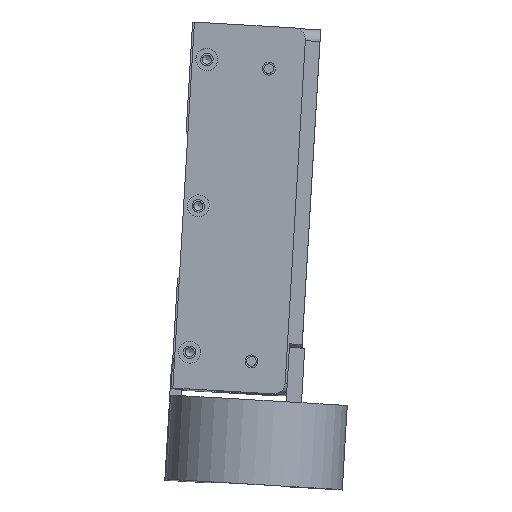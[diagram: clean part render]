
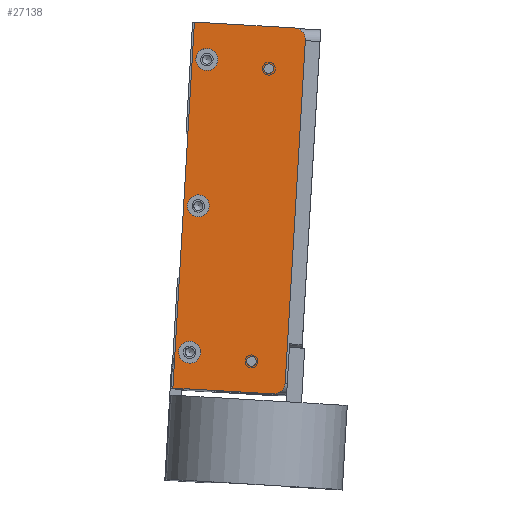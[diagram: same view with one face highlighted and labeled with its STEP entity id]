
A CAD part, top view. The second image highlights one B-rep face of the part: STEP entity #27138.
In plain terms, the highlighted planar face has unit normal (0, 0, 1) as drawn and (0, -1, 0) by its records, which use the part's own axes.
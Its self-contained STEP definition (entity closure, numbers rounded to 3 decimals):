
#745=PLANE($,#29371);
#1711=FACE_BOUND($,#4605,.T.);
#1712=FACE_BOUND($,#4606,.T.);
#1713=FACE_BOUND($,#4607,.T.);
#1714=FACE_BOUND($,#4608,.T.);
#1715=FACE_BOUND($,#4609,.T.);
#1716=FACE_BOUND($,#4610,.T.);
#4605=EDGE_LOOP($,(#21373));
#4606=EDGE_LOOP($,(#21374));
#4607=EDGE_LOOP($,(#21375));
#4608=EDGE_LOOP($,(#21376));
#4609=EDGE_LOOP($,(#21377));
#4610=EDGE_LOOP($,(#21378,#21379,#21380,#21381,#21382,#21383));
#6695=LINE($,#42455,#9190);
#6698=LINE($,#42471,#9193);
#6699=LINE($,#42473,#9194);
#6700=LINE($,#42475,#9195);
#9190=VECTOR($,#34167,93.65);
#9193=VECTOR($,#34182,27.325);
#9194=VECTOR($,#34183,100.);
#9195=VECTOR($,#34184,27.325);
#11567=CIRCLE($,#29368,3.175);
#11569=CIRCLE($,#29372,3.);
#11570=CIRCLE($,#29373,3.);
#11571=CIRCLE($,#29374,3.);
#11572=CIRCLE($,#29375,1.321);
#11573=CIRCLE($,#29376,1.321);
#11574=CIRCLE($,#29377,3.175);
#13078=VERTEX_POINT($,#42445);
#13079=VERTEX_POINT($,#42446);
#13082=VERTEX_POINT($,#42454);
#13084=VERTEX_POINT($,#42460);
#13085=VERTEX_POINT($,#42462);
#13086=VERTEX_POINT($,#42464);
#13087=VERTEX_POINT($,#42466);
#13088=VERTEX_POINT($,#42468);
#13089=VERTEX_POINT($,#42470);
#13090=VERTEX_POINT($,#42472);
#13091=VERTEX_POINT($,#42474);
#16154=EDGE_CURVE($,#13078,#13079,#11567,.T.);
#16158=EDGE_CURVE($,#13079,#13082,#6695,.T.);
#16161=EDGE_CURVE($,#13084,#13084,#11569,.T.);
#16162=EDGE_CURVE($,#13085,#13085,#11570,.T.);
#16163=EDGE_CURVE($,#13086,#13086,#11571,.T.);
#16164=EDGE_CURVE($,#13087,#13087,#11572,.T.);
#16165=EDGE_CURVE($,#13088,#13088,#11573,.T.);
#16166=EDGE_CURVE($,#13078,#13089,#6698,.T.);
#16167=EDGE_CURVE($,#13089,#13090,#6699,.T.);
#16168=EDGE_CURVE($,#13090,#13091,#6700,.T.);
#16169=EDGE_CURVE($,#13082,#13091,#11574,.T.);
#21373=ORIENTED_EDGE($,*,*,#16161,.T.);
#21374=ORIENTED_EDGE($,*,*,#16162,.T.);
#21375=ORIENTED_EDGE($,*,*,#16163,.T.);
#21376=ORIENTED_EDGE($,*,*,#16164,.T.);
#21377=ORIENTED_EDGE($,*,*,#16165,.T.);
#21378=ORIENTED_EDGE($,*,*,#16154,.F.);
#21379=ORIENTED_EDGE($,*,*,#16166,.T.);
#21380=ORIENTED_EDGE($,*,*,#16167,.T.);
#21381=ORIENTED_EDGE($,*,*,#16168,.T.);
#21382=ORIENTED_EDGE($,*,*,#16169,.F.);
#21383=ORIENTED_EDGE($,*,*,#16158,.F.);
#27138=ADVANCED_FACE($,(#1711,#1712,#1713,#1714,#1715,#1716),#745,.T.);
#29368=AXIS2_PLACEMENT_3D($,#42447,#34159,#34160);
#29371=AXIS2_PLACEMENT_3D($,#42459,#34170,#34171);
#29372=AXIS2_PLACEMENT_3D($,#42461,#34172,#34173);
#29373=AXIS2_PLACEMENT_3D($,#42463,#34174,#34175);
#29374=AXIS2_PLACEMENT_3D($,#42465,#34176,#34177);
#29375=AXIS2_PLACEMENT_3D($,#42467,#34178,#34179);
#29376=AXIS2_PLACEMENT_3D($,#42469,#34180,#34181);
#29377=AXIS2_PLACEMENT_3D($,#42476,#34185,#34186);
#34159=DIRECTION('center_axis',(0.,1.,0.));
#34160=DIRECTION('ref_axis',(0.707,0.,0.707));
#34167=DIRECTION($,(0.,0.,-1.));
#34170=DIRECTION('center_axis',(0.,-1.,0.));
#34171=DIRECTION('ref_axis',(0.,0.,-1.));
#34172=DIRECTION('center_axis',(0.,1.,0.));
#34173=DIRECTION('ref_axis',(1.,0.,0.));
#34174=DIRECTION('center_axis',(0.,1.,0.));
#34175=DIRECTION('ref_axis',(1.,0.,0.));
#34176=DIRECTION('center_axis',(0.,1.,0.));
#34177=DIRECTION('ref_axis',(1.,0.,0.));
#34178=DIRECTION('center_axis',(0.,1.,0.));
#34179=DIRECTION('ref_axis',(1.,0.,0.));
#34180=DIRECTION('center_axis',(0.,1.,0.));
#34181=DIRECTION('ref_axis',(1.,0.,0.));
#34182=DIRECTION($,(-1.,0.,0.));
#34183=DIRECTION($,(0.,0.,-1.));
#34184=DIRECTION($,(1.,0.,0.));
#34185=DIRECTION('center_axis',(0.,1.,0.));
#34186=DIRECTION('ref_axis',(0.707,0.,-0.707));
#42445=CARTESIAN_POINT('',(12.075,-2.5,50.));
#42446=CARTESIAN_POINT('',(15.25,-2.5,46.825));
#42447=CARTESIAN_POINT('Origin',(12.075,-2.5,46.825));
#42454=CARTESIAN_POINT('',(15.25,-2.5,-46.825));
#42455=CARTESIAN_POINT($,(15.25,-2.5,0.));
#42459=CARTESIAN_POINT('Origin',(15.25,-2.5,0.));
#42460=CARTESIAN_POINT('',(-8.25,-2.5,0.));
#42461=CARTESIAN_POINT('Origin',(-11.25,-2.5,0.));
#42462=CARTESIAN_POINT('',(-8.25,-2.5,40.));
#42463=CARTESIAN_POINT('Origin',(-11.25,-2.5,40.));
#42464=CARTESIAN_POINT('',(-8.25,-2.5,-40.));
#42465=CARTESIAN_POINT('Origin',(-11.25,-2.5,-40.));
#42466=CARTESIAN_POINT('',(7.071,-2.5,38.5));
#42467=CARTESIAN_POINT('Origin',(5.75,-2.5,38.5));
#42468=CARTESIAN_POINT('',(7.037,-2.5,-41.5));
#42469=CARTESIAN_POINT('Origin',(5.716,-2.5,-41.5));
#42470=CARTESIAN_POINT('',(-15.25,-2.5,50.));
#42471=CARTESIAN_POINT($,(15.25,-2.5,50.));
#42472=CARTESIAN_POINT('',(-15.25,-2.5,-50.));
#42473=CARTESIAN_POINT($,(-15.25,-2.5,0.));
#42474=CARTESIAN_POINT('',(12.075,-2.5,-50.));
#42475=CARTESIAN_POINT($,(15.25,-2.5,-50.));
#42476=CARTESIAN_POINT('Origin',(12.075,-2.5,-46.825));
